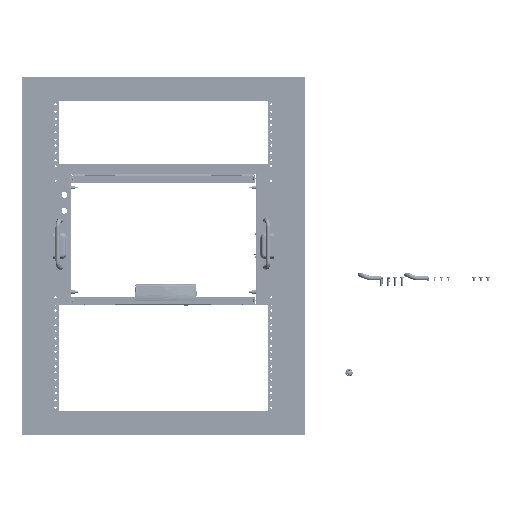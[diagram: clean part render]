
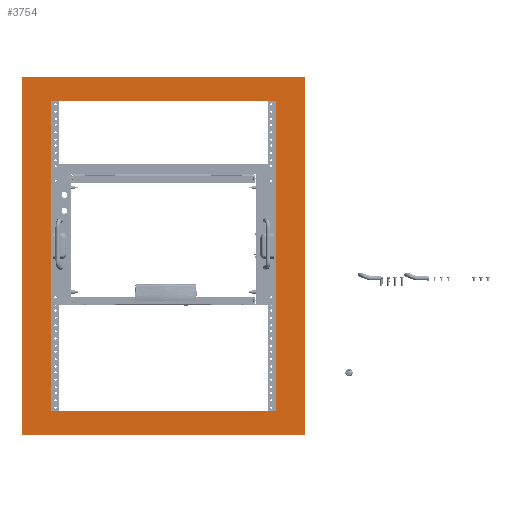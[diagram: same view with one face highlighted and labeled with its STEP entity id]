
A CAD part, front view. The second image highlights one B-rep face of the part: STEP entity #3754.
In plain terms, the highlighted planar face has unit normal (0, -1, 0) as drawn and (0, 0, 1) by its records, which use the part's own axes.
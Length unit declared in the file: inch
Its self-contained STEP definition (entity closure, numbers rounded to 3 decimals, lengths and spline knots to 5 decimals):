
#233=DIRECTION('',(0.,-1.,0.));
#234=VECTOR('',#233,30.31);
#235=CARTESIAN_POINT('',(-12.,15.155,0.69));
#236=LINE('',#235,#234);
#237=DIRECTION('',(-1.,0.,0.));
#238=VECTOR('',#237,24.);
#239=CARTESIAN_POINT('',(12.,15.155,0.69));
#240=LINE('',#239,#238);
#241=DIRECTION('',(0.,1.,0.));
#242=VECTOR('',#241,30.31);
#243=CARTESIAN_POINT('',(12.,-15.155,0.69));
#244=LINE('',#243,#242);
#245=DIRECTION('',(1.,0.,0.));
#246=VECTOR('',#245,24.);
#247=CARTESIAN_POINT('',(-12.,-15.155,0.69));
#248=LINE('',#247,#246);
#249=DIRECTION('',(1.,0.,0.));
#250=VECTOR('',#249,19.031);
#251=CARTESIAN_POINT('',(-9.5155,13.155,0.69));
#252=LINE('',#251,#250);
#253=DIRECTION('',(0.,1.,0.));
#254=VECTOR('',#253,26.31);
#255=CARTESIAN_POINT('',(-9.5155,-13.155,0.69));
#256=LINE('',#255,#254);
#257=DIRECTION('',(-1.,0.,0.));
#258=VECTOR('',#257,19.031);
#259=CARTESIAN_POINT('',(9.5155,-13.155,0.69));
#260=LINE('',#259,#258);
#261=DIRECTION('',(0.,-1.,0.));
#262=VECTOR('',#261,26.31);
#263=CARTESIAN_POINT('',(9.5155,13.155,0.69));
#264=LINE('',#263,#262);
#2945=CARTESIAN_POINT('',(-12.,15.155,0.69));
#2946=CARTESIAN_POINT('',(-12.,-15.155,0.69));
#2947=VERTEX_POINT('',#2945);
#2948=VERTEX_POINT('',#2946);
#2949=CARTESIAN_POINT('',(12.,-15.155,0.69));
#2950=VERTEX_POINT('',#2949);
#2951=CARTESIAN_POINT('',(12.,15.155,0.69));
#2952=VERTEX_POINT('',#2951);
#2953=CARTESIAN_POINT('',(-9.5155,13.155,0.69));
#2954=CARTESIAN_POINT('',(9.5155,13.155,0.69));
#2955=VERTEX_POINT('',#2953);
#2956=VERTEX_POINT('',#2954);
#2957=CARTESIAN_POINT('',(9.5155,-13.155,0.69));
#2958=VERTEX_POINT('',#2957);
#2959=CARTESIAN_POINT('',(-9.5155,-13.155,0.69));
#2960=VERTEX_POINT('',#2959);
#3729=CARTESIAN_POINT('',(0.,0.,0.69));
#3730=DIRECTION('',(0.,0.,1.));
#3731=DIRECTION('',(1.,0.,0.));
#3732=AXIS2_PLACEMENT_3D('',#3729,#3730,#3731);
#3733=PLANE('',#3732);
#3735=ORIENTED_EDGE('',*,*,#3734,.F.);
#3737=ORIENTED_EDGE('',*,*,#3736,.F.);
#3739=ORIENTED_EDGE('',*,*,#3738,.F.);
#3741=ORIENTED_EDGE('',*,*,#3740,.F.);
#3742=EDGE_LOOP('',(#3735,#3737,#3739,#3741));
#3743=FACE_OUTER_BOUND('',#3742,.F.);
#3745=ORIENTED_EDGE('',*,*,#3744,.F.);
#3747=ORIENTED_EDGE('',*,*,#3746,.F.);
#3749=ORIENTED_EDGE('',*,*,#3748,.F.);
#3751=ORIENTED_EDGE('',*,*,#3750,.F.);
#3752=EDGE_LOOP('',(#3745,#3747,#3749,#3751));
#3753=FACE_BOUND('',#3752,.F.);
#3754=ADVANCED_FACE('',(#3743,#3753),#3733,.T.);
#3734=EDGE_CURVE('',#2947,#2948,#236,.T.);
#3736=EDGE_CURVE('',#2952,#2947,#240,.T.);
#3738=EDGE_CURVE('',#2950,#2952,#244,.T.);
#3740=EDGE_CURVE('',#2948,#2950,#248,.T.);
#3744=EDGE_CURVE('',#2955,#2956,#252,.T.);
#3746=EDGE_CURVE('',#2960,#2955,#256,.T.);
#3748=EDGE_CURVE('',#2958,#2960,#260,.T.);
#3750=EDGE_CURVE('',#2956,#2958,#264,.T.);
